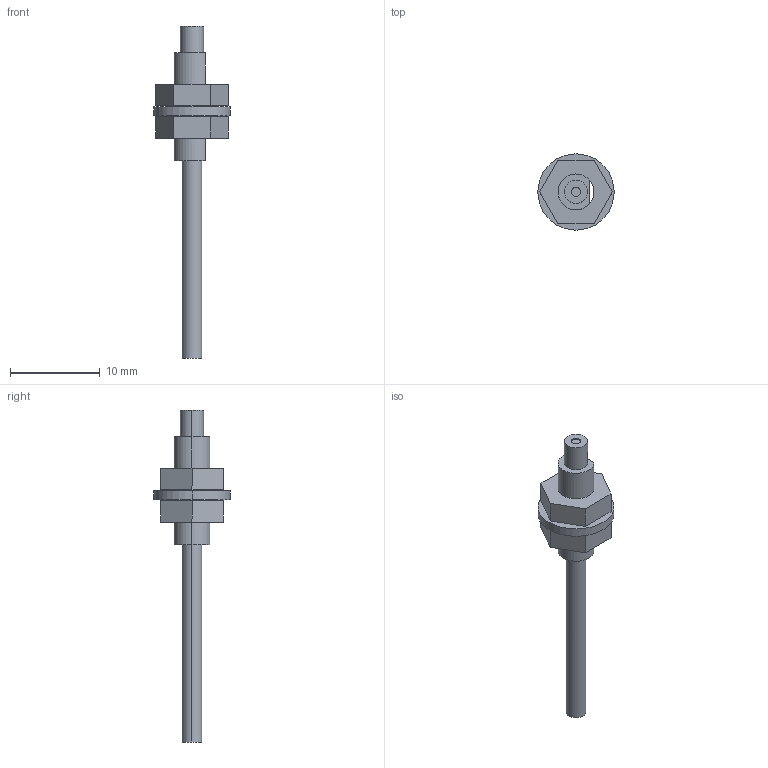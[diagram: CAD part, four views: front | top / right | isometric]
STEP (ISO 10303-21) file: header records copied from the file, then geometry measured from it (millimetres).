
FILE_DESCRIPTION (( 'STEP AP203' ), '1' );
FILE_NAME ('FT-FM2.STEP', '2005-09-08T05:41:44', ( '' ), ( '' ), 'SwSTEP 2.0', 'SolidWorks 2004073', '' );
FILE_SCHEMA (( 'CONFIG_CONTROL_DESIGN' ));
Length unit declared in the file: millimetre
Products named in the file (1): FT-FM2
Bounding box: 8.5 x 8.5 x 37 mm (x, y, z)
Volume: 426.9 mm3; surface area: 771.9 mm2
Topology: 4 solids, 4 shells, 40 faces, 87 edges, 58 vertices
Faces by surface type: plane 24, cylinder 16
Entity records: 1186 total; most frequent: DIRECTION 201, CARTESIAN_POINT 186, ORIENTED_EDGE 174, EDGE_CURVE 87, AXIS2_PLACEMENT_3D 73, VERTEX_POINT 58, VECTOR 55, LINE 55
